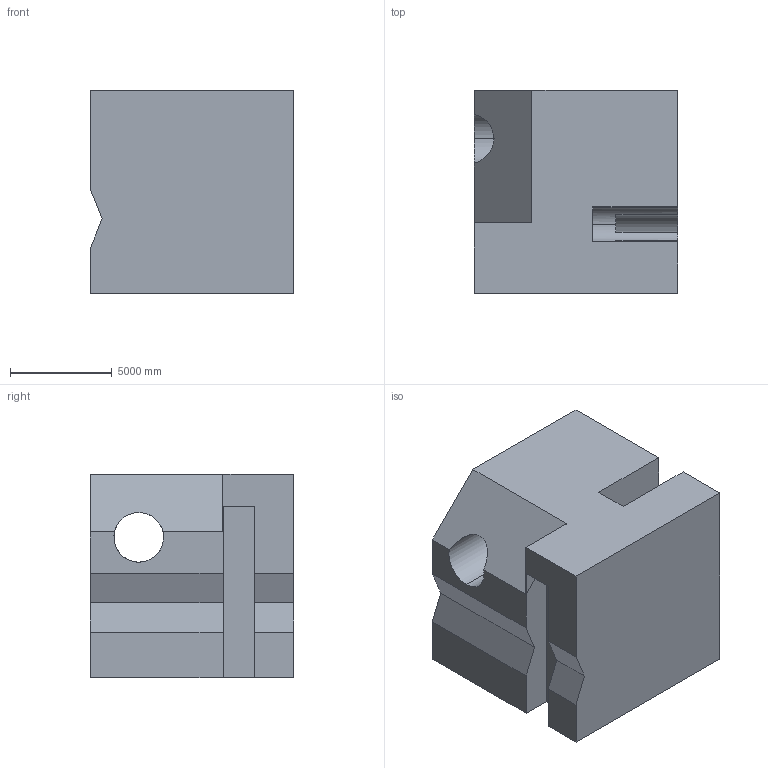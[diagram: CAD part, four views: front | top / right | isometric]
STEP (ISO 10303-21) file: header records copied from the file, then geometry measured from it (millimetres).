
FILE_DESCRIPTION (( 'STEP AP203' ), '1' );
FILE_NAME ('562.STEP', '2022-07-29T11:50:02', ( 'user' ), ( '' ), 'SwSTEP 2.0', 'SolidWorks 2021', '' );
FILE_SCHEMA (( 'CONFIG_CONTROL_DESIGN' ));
Length unit declared in the file: centimetre
Products named in the file (1): 562
Bounding box: 10000 x 10000 x 10000 mm (x, y, z)
Volume: 873205086867.6 mm3; surface area: 714670535.9 mm2
Topology: 1 solids, 1 shells, 31 faces, 90 edges, 60 vertices
Faces by surface type: plane 23, cylinder 8
Entity records: 1104 total; most frequent: CARTESIAN_POINT 188, ORIENTED_EDGE 180, DIRECTION 171, EDGE_CURVE 90, VECTOR 69, LINE 69, VERTEX_POINT 60, AXIS2_PLACEMENT_3D 51
